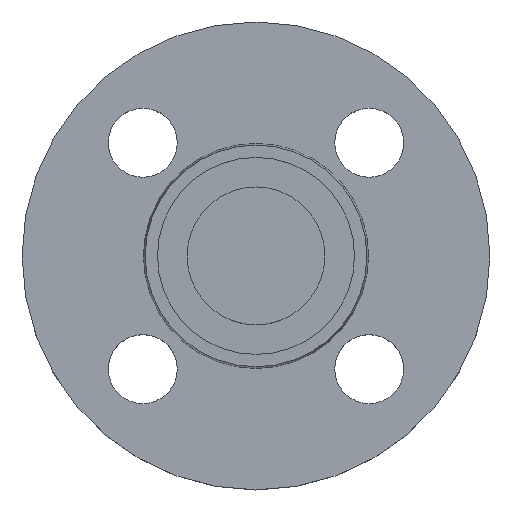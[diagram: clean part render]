
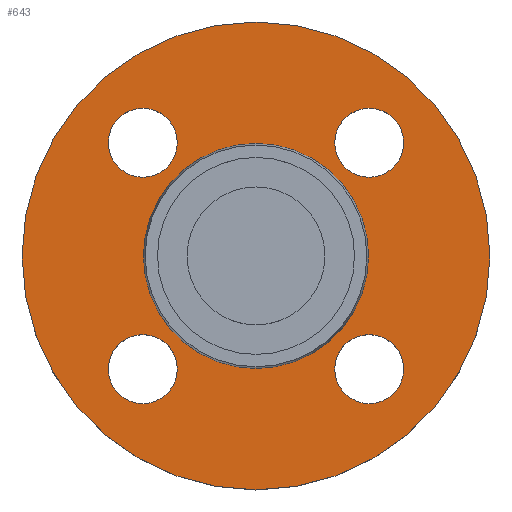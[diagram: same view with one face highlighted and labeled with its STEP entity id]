
A CAD part, top view. The second image highlights one B-rep face of the part: STEP entity #643.
In plain terms, the highlighted planar face has unit normal (0, 0, 1).
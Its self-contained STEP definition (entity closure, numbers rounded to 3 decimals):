
#1 = FACE_BOUND ( 'NONE', #453, .T. ) ;
#3 = FACE_BOUND ( 'NONE', #562, .T. ) ;
#4 = FACE_BOUND ( 'NONE', #450, .T. ) ;
#5 = FACE_BOUND ( 'NONE', #411, .T. ) ;
#6 = FACE_BOUND ( 'NONE', #587, .T. ) ;
#13 = CIRCLE ( 'NONE', #14, 47.5 ) ;
#14 = AXIS2_PLACEMENT_3D ( 'NONE', #648, #649, #650 ) ;
#18 = CIRCLE ( 'NONE', #19, 7. ) ;
#19 = AXIS2_PLACEMENT_3D ( 'NONE', #662, #666, #667 ) ;
#24 = CARTESIAN_POINT ( 'NONE',  ( -29.981, -22.981, -2. ) ) ;
#25 = CARTESIAN_POINT ( 'NONE',  ( -15.981, 22.981, -2. ) ) ;
#27 = CARTESIAN_POINT ( 'NONE',  ( 47.5, 0., -2. ) ) ;
#28 = CARTESIAN_POINT ( 'NONE',  ( -22.853, 0., -2. ) ) ;
#31 = CARTESIAN_POINT ( 'NONE',  ( -29.981, 22.981, -2. ) ) ;
#33 = CARTESIAN_POINT ( 'NONE',  ( -47.5, 0., -2. ) ) ;
#40 = CARTESIAN_POINT ( 'NONE',  ( 15.981, -22.981, -2. ) ) ;
#44 = DIRECTION ( 'NONE',  ( 1., 0., 0. ) ) ;
#45 = DIRECTION ( 'NONE',  ( 0., 0., -1. ) ) ;
#46 = CARTESIAN_POINT ( 'NONE',  ( -22.981, 22.981, -2. ) ) ;
#55 = CARTESIAN_POINT ( 'NONE',  ( 15.981, 22.981, -2. ) ) ;
#56 = AXIS2_PLACEMENT_3D ( 'NONE', #641, #173, #174 ) ;
#58 = EDGE_CURVE ( 'NONE', #618, #608, #13, .T. ) ;
#89 = DIRECTION ( 'NONE',  ( -1., 0., 0. ) ) ;
#90 = DIRECTION ( 'NONE',  ( 0., 0., -1. ) ) ;
#91 = CARTESIAN_POINT ( 'NONE',  ( 0., 0., -2. ) ) ;
#96 = CARTESIAN_POINT ( 'NONE',  ( 22.981, -22.981, -2. ) ) ;
#98 = AXIS2_PLACEMENT_3D ( 'NONE', #273, #274, #276 ) ;
#104 = DIRECTION ( 'NONE',  ( 0., 0., -1. ) ) ;
#105 = DIRECTION ( 'NONE',  ( 0., 0., -1. ) ) ;
#106 = EDGE_CURVE ( 'NONE', #610, #626, #18, .T. ) ;
#108 = DIRECTION ( 'NONE',  ( 1., 0., 0. ) ) ;
#137 = DIRECTION ( 'NONE',  ( 1., 0., 0. ) ) ;
#138 = CARTESIAN_POINT ( 'NONE',  ( 22.981, 22.981, -2. ) ) ;
#146 = CARTESIAN_POINT ( 'NONE',  ( -22.981, -22.981, -2. ) ) ;
#154 = CARTESIAN_POINT ( 'NONE',  ( -15.981, -22.981, -2. ) ) ;
#159 = CIRCLE ( 'NONE', #484, 7. ) ;
#161 = DIRECTION ( 'NONE',  ( 0., 0., 1. ) ) ;
#168 = CARTESIAN_POINT ( 'NONE',  ( 22.853, 0., -2. ) ) ;
#173 = DIRECTION ( 'NONE',  ( 0., 0., -1. ) ) ;
#174 = DIRECTION ( 'NONE',  ( 1., 0., 0. ) ) ;
#180 = CIRCLE ( 'NONE', #543, 22.853 ) ;
#183 = PLANE ( 'NONE',  #237 ) ;
#186 = CARTESIAN_POINT ( 'NONE',  ( 0., 0., -2. ) ) ;
#196 = CARTESIAN_POINT ( 'NONE',  ( 29.981, 22.981, -2. ) ) ;
#215 = CARTESIAN_POINT ( 'NONE',  ( 22.981, -22.981, -2. ) ) ;
#216 = DIRECTION ( 'NONE',  ( 0., 0., -1. ) ) ;
#217 = DIRECTION ( 'NONE',  ( 1., 0., 0. ) ) ;
#218 = AXIS2_PLACEMENT_3D ( 'NONE', #245, #253, #265 ) ;
#228 = CIRCLE ( 'NONE', #633, 47.5 ) ;
#237 = AXIS2_PLACEMENT_3D ( 'NONE', #514, #161, #674 ) ;
#241 = CIRCLE ( 'NONE', #681, 7. ) ;
#245 = CARTESIAN_POINT ( 'NONE',  ( 22.981, 22.981, -2. ) ) ;
#253 = DIRECTION ( 'NONE',  ( 0., 0., -1. ) ) ;
#265 = DIRECTION ( 'NONE',  ( 1., 0., 0. ) ) ;
#273 = CARTESIAN_POINT ( 'NONE',  ( 0., 0., -2. ) ) ;
#274 = DIRECTION ( 'NONE',  ( 0., 0., -1. ) ) ;
#276 = DIRECTION ( 'NONE',  ( -1., 0., 0. ) ) ;
#298 = DIRECTION ( 'NONE',  ( 0., 0., -1. ) ) ;
#302 = DIRECTION ( 'NONE',  ( 1., 0., 0. ) ) ;
#305 = CARTESIAN_POINT ( 'NONE',  ( 29.981, -22.981, -2. ) ) ;
#311 = CIRCLE ( 'NONE', #775, 7. ) ;
#317 = CIRCLE ( 'NONE', #799, 7. ) ;
#322 = DIRECTION ( 'NONE',  ( 0., 0., -1. ) ) ;
#329 = CIRCLE ( 'NONE', #56, 7. ) ;
#330 = AXIS2_PLACEMENT_3D ( 'NONE', #46, #45, #44 ) ;
#336 = DIRECTION ( 'NONE',  ( -1., 0., 0. ) ) ;
#340 = CIRCLE ( 'NONE', #98, 22.853 ) ;
#342 = EDGE_CURVE ( 'NONE', #482, #627, #329, .T. ) ;
#346 = VERTEX_POINT ( 'NONE', #196 ) ;
#360 = EDGE_CURVE ( 'NONE', #414, #605, #317, .T. ) ;
#368 = EDGE_CURVE ( 'NONE', #586, #346, #469, .T. ) ;
#376 = EDGE_CURVE ( 'NONE', #617, #463, #340, .T. ) ;
#382 = ORIENTED_EDGE ( 'NONE', *, *, #536, .F. ) ;
#411 = EDGE_LOOP ( 'NONE', ( #481, #485 ) ) ;
#414 = VERTEX_POINT ( 'NONE', #305 ) ;
#438 = EDGE_CURVE ( 'NONE', #346, #586, #311, .T. ) ;
#450 = EDGE_LOOP ( 'NONE', ( #487, #488 ) ) ;
#453 = EDGE_LOOP ( 'NONE', ( #492, #494 ) ) ;
#457 = EDGE_CURVE ( 'NONE', #463, #617, #180, .T. ) ;
#463 = VERTEX_POINT ( 'NONE', #168 ) ;
#469 = CIRCLE ( 'NONE', #218, 7. ) ;
#473 = EDGE_CURVE ( 'NONE', #627, #482, #241, .T. ) ;
#479 = ORIENTED_EDGE ( 'NONE', *, *, #360, .T. ) ;
#480 = ORIENTED_EDGE ( 'NONE', *, *, #528, .T. ) ;
#481 = ORIENTED_EDGE ( 'NONE', *, *, #342, .T. ) ;
#482 = VERTEX_POINT ( 'NONE', #154 ) ;
#484 = AXIS2_PLACEMENT_3D ( 'NONE', #96, #105, #108 ) ;
#485 = ORIENTED_EDGE ( 'NONE', *, *, #473, .T. ) ;
#487 = ORIENTED_EDGE ( 'NONE', *, *, #592, .T. ) ;
#488 = ORIENTED_EDGE ( 'NONE', *, *, #106, .T. ) ;
#490 = ORIENTED_EDGE ( 'NONE', *, *, #438, .T. ) ;
#491 = ORIENTED_EDGE ( 'NONE', *, *, #368, .T. ) ;
#492 = ORIENTED_EDGE ( 'NONE', *, *, #376, .T. ) ;
#494 = ORIENTED_EDGE ( 'NONE', *, *, #457, .T. ) ;
#495 = ORIENTED_EDGE ( 'NONE', *, *, #58, .F. ) ;
#514 = CARTESIAN_POINT ( 'NONE',  ( 22.853, 0., -2. ) ) ;
#528 = EDGE_CURVE ( 'NONE', #605, #414, #159, .T. ) ;
#536 = EDGE_CURVE ( 'NONE', #608, #618, #228, .T. ) ;
#543 = AXIS2_PLACEMENT_3D ( 'NONE', #186, #322, #336 ) ;
#562 = EDGE_LOOP ( 'NONE', ( #490, #491 ) ) ;
#586 = VERTEX_POINT ( 'NONE', #55 ) ;
#587 = EDGE_LOOP ( 'NONE', ( #479, #480 ) ) ;
#592 = EDGE_CURVE ( 'NONE', #626, #610, #711, .T. ) ;
#602 = FACE_OUTER_BOUND ( 'NONE', #603, .T. ) ;
#603 = EDGE_LOOP ( 'NONE', ( #495, #382 ) ) ;
#605 = VERTEX_POINT ( 'NONE', #40 ) ;
#608 = VERTEX_POINT ( 'NONE', #33 ) ;
#610 = VERTEX_POINT ( 'NONE', #31 ) ;
#617 = VERTEX_POINT ( 'NONE', #28 ) ;
#618 = VERTEX_POINT ( 'NONE', #27 ) ;
#626 = VERTEX_POINT ( 'NONE', #25 ) ;
#627 = VERTEX_POINT ( 'NONE', #24 ) ;
#633 = AXIS2_PLACEMENT_3D ( 'NONE', #91, #90, #89 ) ;
#641 = CARTESIAN_POINT ( 'NONE',  ( -22.981, -22.981, -2. ) ) ;
#643 = ADVANCED_FACE ( 'NONE', ( #6, #5, #4, #3, #1, #602 ), #183, .T. ) ;
#648 = CARTESIAN_POINT ( 'NONE',  ( 0., 0., -2. ) ) ;
#649 = DIRECTION ( 'NONE',  ( 0., 0., -1. ) ) ;
#650 = DIRECTION ( 'NONE',  ( -1., 0., 0. ) ) ;
#662 = CARTESIAN_POINT ( 'NONE',  ( -22.981, 22.981, -2. ) ) ;
#666 = DIRECTION ( 'NONE',  ( 0., 0., -1. ) ) ;
#667 = DIRECTION ( 'NONE',  ( 1., 0., 0. ) ) ;
#674 = DIRECTION ( 'NONE',  ( 1., 0., 0. ) ) ;
#681 = AXIS2_PLACEMENT_3D ( 'NONE', #146, #298, #302 ) ;
#711 = CIRCLE ( 'NONE', #330, 7. ) ;
#775 = AXIS2_PLACEMENT_3D ( 'NONE', #138, #104, #137 ) ;
#799 = AXIS2_PLACEMENT_3D ( 'NONE', #215, #216, #217 ) ;
